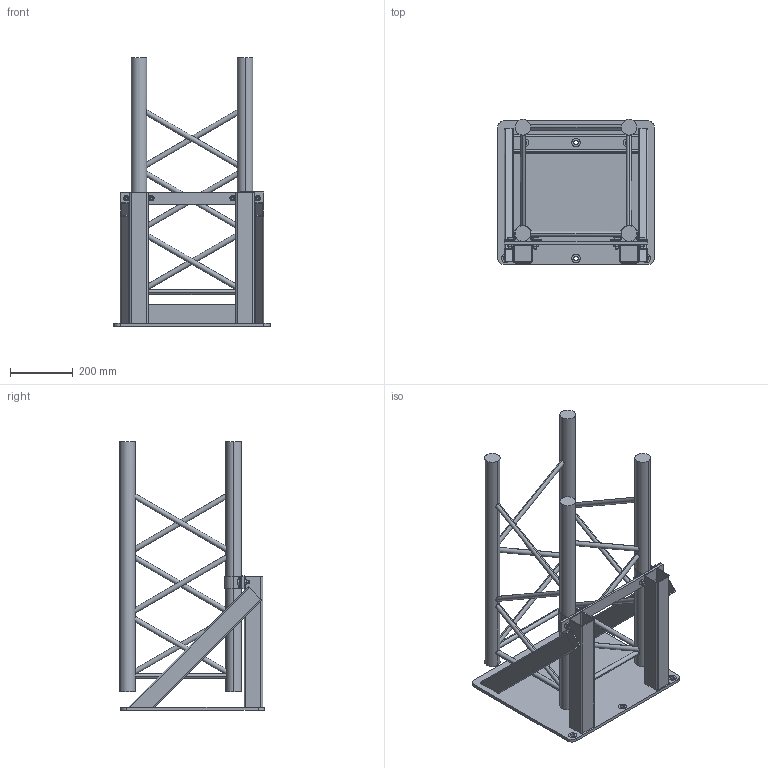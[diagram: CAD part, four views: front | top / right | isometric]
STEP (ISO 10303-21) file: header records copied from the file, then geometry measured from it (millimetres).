
FILE_DESCRIPTION (( 'STEP AP203' ), '1' );
FILE_NAME ('FM40.STEP', '2009-10-23T14:46:06', ( 'CEDIA' ), ( 'CEDIA INDUSTRIE' ), 'SwSTEP 2.0', 'SolidWorks 2009', '' );
FILE_SCHEMA (( 'CONFIG_CONTROL_DESIGN' ));
Length unit declared in the file: millimetre
Products named in the file (13): FM40; 00605-001; Vis H M10x30 - 8,8, Grade A, type 2 - NF E 25-114_Default; ASX 390; 00605_REPB; CAVALIER; Ecrou H, M10 - 8, Grade A, type 2 - NF E 25-401_Default; Symétrie00605_REPB1; Symétrie00605_REPC1; 00605_REPA; 00605_REPC; 00605_REPe_Corniere egale 060x6; 00605_REPD
Assembly tree (19 placements, depth 3):
  FM40
    Ecrou H, M10 - 8, Grade A, type 2 - NF E 25-401_Default  x4
    Vis H M10x30 - 8,8, Grade A, type 2 - NF E 25-114_Default  x4
    ASX 390
    CAVALIER  x2
    00605-001
      00605_REPe_Corniere egale 060x6
      00605_REPB
      00605_REPD
      Symétrie00605_REPC1
      00605_REPA
      00605_REPC
      Symétrie00605_REPB1
Bounding box: 500 x 463 x 860 mm (x, y, z)
Volume: 11155959 mm3; surface area: 2146153.7 mm2
Topology: 18 solids, 18 shells, 441 faces, 1081 edges, 679 vertices
Faces by surface type: plane 176, cylinder 141, cone 108, torus 16
Entity records: 12628 total; most frequent: CARTESIAN_POINT 4557, ORIENTED_EDGE 1370, DIRECTION 1331, EDGE_CURVE 685, AXIS2_PLACEMENT_3D 496, VERTEX_POINT 444, VECTOR 339, LINE 339
